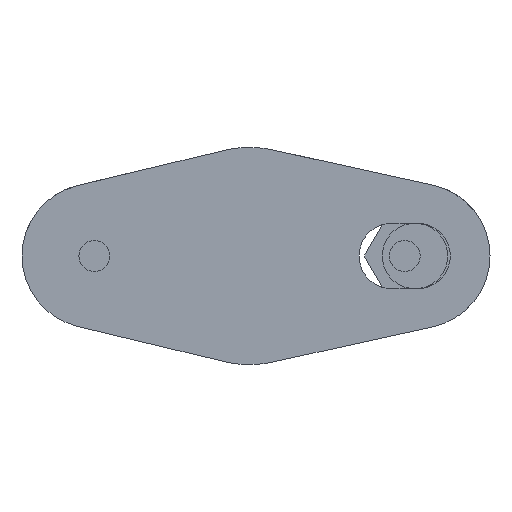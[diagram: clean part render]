
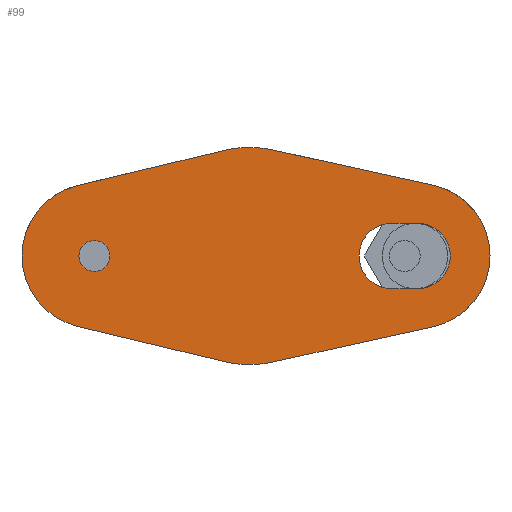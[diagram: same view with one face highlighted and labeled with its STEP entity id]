
A CAD part, front view. The second image highlights one B-rep face of the part: STEP entity #99.
In plain terms, the highlighted planar face has unit normal (0, -1, 0).
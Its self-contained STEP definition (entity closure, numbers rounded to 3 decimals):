
#99=ADVANCED_FACE('',(#185,#186,#187),#188,.F.);
#185=FACE_OUTER_BOUND('',#329,.T.);
#186=FACE_BOUND('',#330,.T.);
#187=FACE_BOUND('',#331,.T.);
#188=PLANE('',#332);
#329=EDGE_LOOP('',(#570,#571,#572,#573,#574,#575,#576,#577,#578,#579));
#330=EDGE_LOOP('',(#580,#581));
#331=EDGE_LOOP('',(#582,#583,#584,#585));
#332=AXIS2_PLACEMENT_3D('',#586,#587,#588);
#570=ORIENTED_EDGE('',*,*,#1029,.F.);
#571=ORIENTED_EDGE('',*,*,#1030,.F.);
#572=ORIENTED_EDGE('',*,*,#1027,.F.);
#573=ORIENTED_EDGE('',*,*,#1023,.F.);
#574=ORIENTED_EDGE('',*,*,#963,.F.);
#575=ORIENTED_EDGE('',*,*,#1021,.F.);
#576=ORIENTED_EDGE('',*,*,#1018,.F.);
#577=ORIENTED_EDGE('',*,*,#1015,.F.);
#578=ORIENTED_EDGE('',*,*,#1031,.F.);
#579=ORIENTED_EDGE('',*,*,#995,.F.);
#580=ORIENTED_EDGE('',*,*,#973,.F.);
#581=ORIENTED_EDGE('',*,*,#1032,.F.);
#582=ORIENTED_EDGE('',*,*,#1033,.T.);
#583=ORIENTED_EDGE('',*,*,#1034,.T.);
#584=ORIENTED_EDGE('',*,*,#1035,.T.);
#585=ORIENTED_EDGE('',*,*,#1036,.T.);
#586=CARTESIAN_POINT('',(30.0,0.0,0.0));
#587=DIRECTION('',(-0.0,1.0,0.0));
#588=DIRECTION('',(1.0,0.0,0.0));
#963=EDGE_CURVE('',#1123,#1126,#1127,.T.);
#973=EDGE_CURVE('',#1145,#1146,#1147,.T.);
#995=EDGE_CURVE('',#1185,#1187,#1188,.T.);
#1015=EDGE_CURVE('',#1219,#1221,#1222,.T.);
#1018=EDGE_CURVE('',#1221,#1226,#1227,.T.);
#1021=EDGE_CURVE('',#1226,#1123,#1230,.T.);
#1023=EDGE_CURVE('',#1126,#1233,#1234,.T.);
#1027=EDGE_CURVE('',#1233,#1239,#1240,.T.);
#1029=EDGE_CURVE('',#1242,#1185,#1243,.T.);
#1030=EDGE_CURVE('',#1239,#1242,#1244,.T.);
#1031=EDGE_CURVE('',#1187,#1219,#1245,.T.);
#1032=EDGE_CURVE('',#1146,#1145,#1246,.T.);
#1033=EDGE_CURVE('',#1247,#1248,#1249,.T.);
#1034=EDGE_CURVE('',#1248,#1250,#1251,.T.);
#1035=EDGE_CURVE('',#1250,#1252,#1253,.T.);
#1036=EDGE_CURVE('',#1252,#1247,#1254,.T.);
#1123=VERTEX_POINT('',#1390);
#1126=VERTEX_POINT('',#1394);
#1127=CIRCLE('',#1395,21.0);
#1145=VERTEX_POINT('',#1416);
#1146=VERTEX_POINT('',#1417);
#1147=CIRCLE('',#1418,3.0);
#1185=VERTEX_POINT('',#1478);
#1187=VERTEX_POINT('',#1481);
#1188=CIRCLE('',#1482,21.0);
#1219=VERTEX_POINT('',#1535);
#1221=VERTEX_POINT('',#1538);
#1222=CIRCLE('',#1539,14.0);
#1226=VERTEX_POINT('',#1545);
#1227=LINE('',#1546,#1547);
#1230=CIRCLE('',#1551,21.0);
#1233=VERTEX_POINT('',#1555);
#1234=LINE('',#1556,#1557);
#1239=VERTEX_POINT('',#1574);
#1240=CIRCLE('',#1575,14.0);
#1242=VERTEX_POINT('',#1578);
#1243=CIRCLE('',#1579,21.0);
#1244=LINE('',#1580,#1581);
#1245=LINE('',#1582,#1583);
#1246=CIRCLE('',#1584,3.0);
#1247=VERTEX_POINT('',#1585);
#1248=VERTEX_POINT('',#1586);
#1249=CIRCLE('',#1587,6.325);
#1250=VERTEX_POINT('',#1588);
#1251=LINE('',#1589,#1590);
#1252=VERTEX_POINT('',#1591);
#1253=CIRCLE('',#1592,6.325);
#1254=LINE('',#1593,#1594);
#1390=CARTESIAN_POINT('',(30.0,0.0,21.0));
#1394=CARTESIAN_POINT('',(34.523,0.0,20.507));
#1395=AXIS2_PLACEMENT_3D('',#1807,#1808,#1809);
#1416=CARTESIAN_POINT('',(0.0,0.0,-3.0));
#1417=CARTESIAN_POINT('',(0.,0.0,3.0));
#1418=AXIS2_PLACEMENT_3D('',#1831,#1832,#1833);
#1478=CARTESIAN_POINT('',(30.0,0.0,-21.0));
#1481=CARTESIAN_POINT('',(25.1,0.0,-20.42));
#1482=AXIS2_PLACEMENT_3D('',#1871,#1872,#1873);
#1535=CARTESIAN_POINT('',(-3.267,0.0,-13.614));
#1538=CARTESIAN_POINT('',(-3.267,0.0,13.614));
#1539=AXIS2_PLACEMENT_3D('',#1905,#1906,#1907);
#1545=CARTESIAN_POINT('',(25.1,0.0,20.42));
#1546=CARTESIAN_POINT('',(25.1,0.0,20.42));
#1547=VECTOR('',#1910,1000.0);
#1551=AXIS2_PLACEMENT_3D('',#1915,#1916,#1917);
#1555=CARTESIAN_POINT('',(65.515,0.0,13.671));
#1556=CARTESIAN_POINT('',(34.523,0.0,20.507));
#1557=VECTOR('',#1919,1000.0);
#1574=CARTESIAN_POINT('',(65.515,0.0,-13.671));
#1575=AXIS2_PLACEMENT_3D('',#1922,#1923,#1924);
#1578=CARTESIAN_POINT('',(34.523,0.0,-20.507));
#1579=AXIS2_PLACEMENT_3D('',#1926,#1927,#1928);
#1580=CARTESIAN_POINT('',(34.523,0.0,-20.507));
#1581=VECTOR('',#1929,1000.0);
#1582=CARTESIAN_POINT('',(25.1,0.0,-20.42));
#1583=VECTOR('',#1930,1000.0);
#1584=AXIS2_PLACEMENT_3D('',#1931,#1932,#1933);
#1585=CARTESIAN_POINT('',(57.5,0.0,-6.325));
#1586=CARTESIAN_POINT('',(57.5,0.0,6.325));
#1587=AXIS2_PLACEMENT_3D('',#1934,#1935,#1936);
#1588=CARTESIAN_POINT('',(62.5,0.0,6.325));
#1589=CARTESIAN_POINT('',(57.5,0.0,6.325));
#1590=VECTOR('',#1937,1000.0);
#1591=CARTESIAN_POINT('',(62.5,0.0,-6.325));
#1592=AXIS2_PLACEMENT_3D('',#1938,#1939,#1940);
#1593=CARTESIAN_POINT('',(57.5,0.0,-6.325));
#1594=VECTOR('',#1941,1000.0);
#1807=CARTESIAN_POINT('',(30.0,0.0,0.0));
#1808=DIRECTION('',(0.0,1.0,0.0));
#1809=DIRECTION('',(0.0,0.0,1.0));
#1831=CARTESIAN_POINT('',(0.0,0.0,0.0));
#1832=DIRECTION('',(0.0,-1.0,0.0));
#1833=DIRECTION('',(0.0,0.0,1.0));
#1871=CARTESIAN_POINT('',(30.0,0.0,0.0));
#1872=DIRECTION('',(0.0,1.0,0.0));
#1873=DIRECTION('',(0.0,0.0,1.0));
#1905=CARTESIAN_POINT('',(0.0,0.0,0.0));
#1906=DIRECTION('',(0.0,1.0,0.0));
#1907=DIRECTION('',(0.0,0.0,1.0));
#1910=DIRECTION('',(0.972,-0.0,0.233));
#1915=CARTESIAN_POINT('',(30.0,0.0,0.0));
#1916=DIRECTION('',(0.0,1.0,0.0));
#1917=DIRECTION('',(0.0,0.0,1.0));
#1919=DIRECTION('',(0.977,0.0,-0.215));
#1922=CARTESIAN_POINT('',(62.5,0.0,0.0));
#1923=DIRECTION('',(0.0,1.0,0.0));
#1924=DIRECTION('',(0.0,0.0,1.0));
#1926=CARTESIAN_POINT('',(30.0,0.0,0.0));
#1927=DIRECTION('',(0.0,1.0,0.0));
#1928=DIRECTION('',(0.0,0.0,1.0));
#1929=DIRECTION('',(-0.977,-0.0,-0.215));
#1930=DIRECTION('',(-0.972,0.0,0.233));
#1931=CARTESIAN_POINT('',(0.0,0.0,0.0));
#1932=DIRECTION('',(0.0,-1.0,0.0));
#1933=DIRECTION('',(0.0,0.0,1.0));
#1934=CARTESIAN_POINT('',(57.5,0.0,0.0));
#1935=DIRECTION('',(0.0,1.0,0.0));
#1936=DIRECTION('',(0.0,0.0,1.0));
#1937=DIRECTION('',(1.0,0.0,0.0));
#1938=CARTESIAN_POINT('',(62.5,0.0,0.0));
#1939=DIRECTION('',(0.0,1.0,0.0));
#1940=DIRECTION('',(0.0,0.0,1.0));
#1941=DIRECTION('',(-1.0,-0.0,-0.0));
